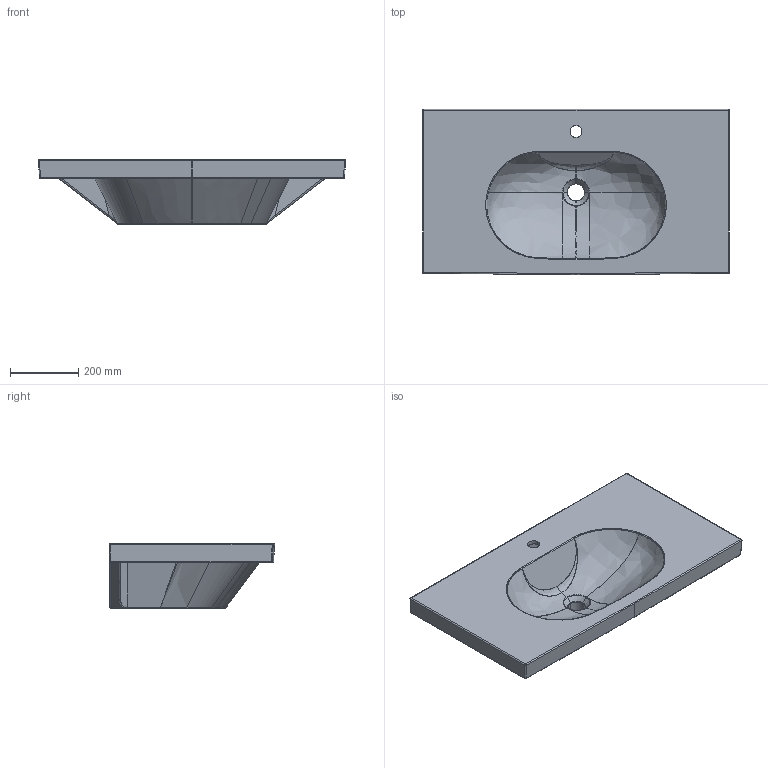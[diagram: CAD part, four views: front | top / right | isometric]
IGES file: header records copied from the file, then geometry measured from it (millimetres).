
Start section: START RECORD GO HERE.
Global section: file name: Lavabo M2 90x48.igs; native system: DASSAULT SYSTEMES CATIA V5 R19 - www.3ds.com; preprocessor: CATIA Version 5 Release 19 SP 5 ; author: Luca; organization: DESKTOP-V7SON24; date: 20201022.150020; units: millimetre
Bounding box: 899.67 x 483.83 x 190 mm (x, y, z)
Surface area: 1452620.4 mm2 (no closed solid volume)
Topology: 0 solids, 0 shells, 410 faces, 1917 edges, 1881 vertices
Faces by surface type: bspline 219, revolution 160, plane 30, extrusion 1
